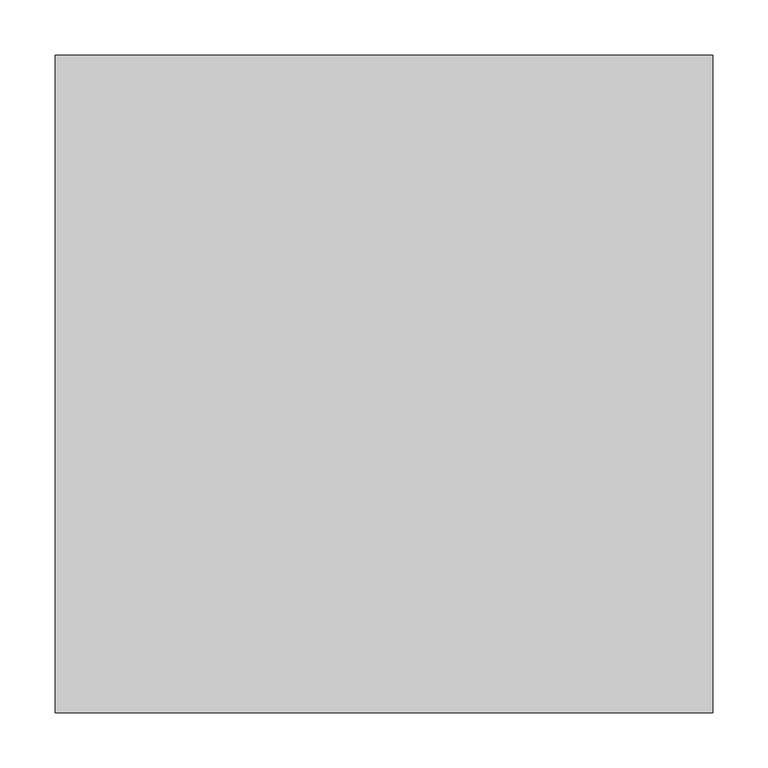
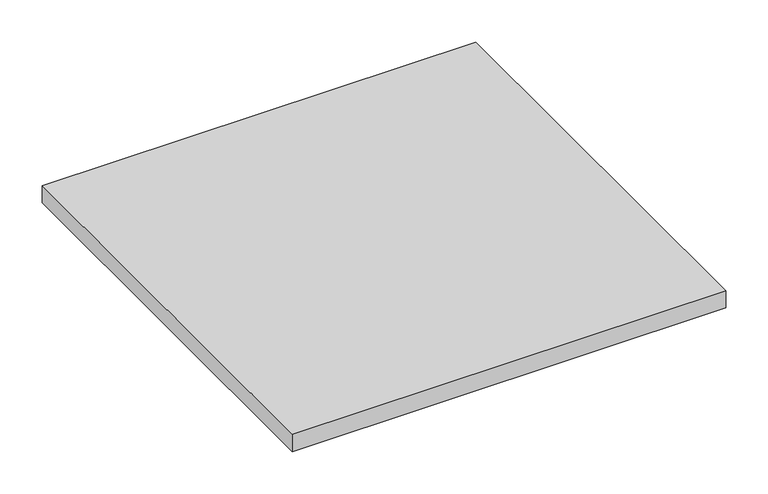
"""IFC4 building model written with IfcOpenShell, lengths in millimetres: light fixture geometry, GENILED_Светильник светодиодный_Офис Advanced : Офис Advanced 595x595x25 30Вт IP54 Опал."""

from ifc_helpers import new_model, si_unit, origin, place, context, project, spatial, faceted_brep, source, transform, mapped, element, save


def light_fixture_f376c791(model_context):
    return source(origin(), model_context, "Body", "Brep", [
        faceted_brep([(297.5, 297.5, 25.0), (-297.5, 297.5, 25.0), (-297.5, -297.5, 25.0), (297.5, -297.5, 25.0), (297.5, 297.5, 0.0), (297.5, -297.5, 0.0), (-297.5, -297.5, 0.0), (-297.5, 297.5, 0.0), (287.5, 287.5, 0.0), (-287.5, 287.5, 0.0), (-287.5, -287.5, 0.0), (287.5, -287.5, 0.0), (287.5, -287.5, 5.0), (287.5, 287.5, 5.0), (-287.5, -287.5, 5.0), (-287.5, 287.5, 5.0)], [[[0, 1, 2, 3]], [[4, 5, 6, 7], [8, 9, 10, 11]], [[1, 0, 4, 7]], [[2, 1, 7, 6]], [[3, 2, 6, 5]], [[0, 3, 5, 4]], [[8, 11, 12, 13]], [[11, 10, 14, 12]], [[10, 9, 15, 14]], [[9, 8, 13, 15]], [[13, 12, 14, 15]]]),
    ])


if __name__ == "__main__":
    model = new_model("IFC4")
    model_context = context("Model", 3, world=origin())
    ifc_project = project(units=[si_unit("LENGTHUNIT", "METRE", prefix="MILLI")], contexts=[model_context])
    site = spatial("IfcSite", under=ifc_project)
    building = spatial("IfcBuilding", under=site)
    placement = place(None, origin())
    light_fixture_shape = light_fixture_f376c791(model_context)
    element("IfcLightFixture", 1, ObjectType="GENILED_Светильник светодиодный_Офис Advanced : Офис Advanced 595x595x25 30Вт IP54 Опал", at=placement, inside=building, context=model_context, shape_type="MappedRepresentation", body=[
        mapped(light_fixture_shape, transform((0.0, 0.0, 0.0), x_axis=(1.0, 0.0, 0.0), y_axis=(0.0, 1.0, 0.0), z_axis=(0.0, 0.0, 1.0))),
    ])
    save(model, "model.ifc")
